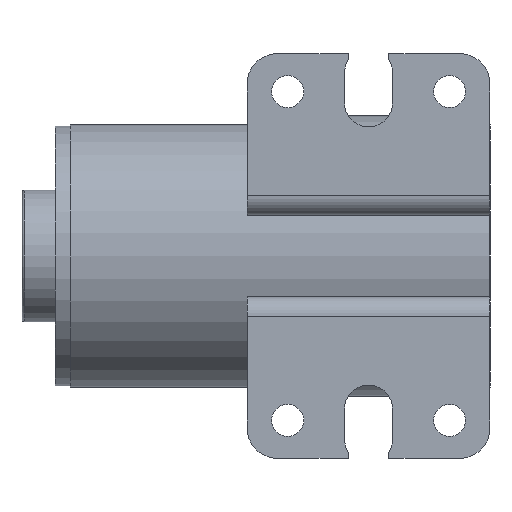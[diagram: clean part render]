
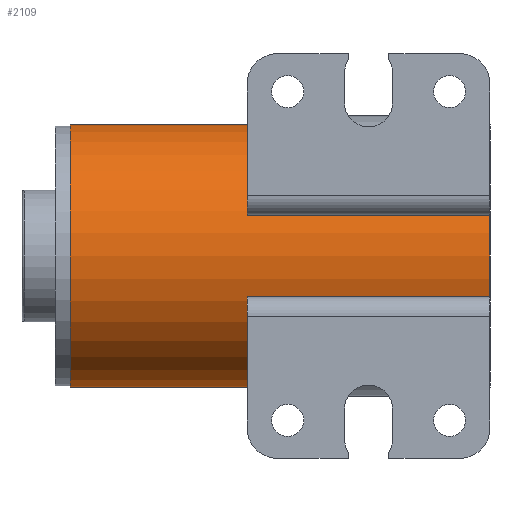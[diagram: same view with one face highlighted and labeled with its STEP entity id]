
A CAD part, front view. The second image highlights one B-rep face of the part: STEP entity #2109.
In plain terms, the highlighted cylindrical face has radius 26 mm (diameter 52 mm), a partial arc.
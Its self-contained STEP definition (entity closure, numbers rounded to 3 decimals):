
#28 = VERTEX_POINT ( 'NONE', #1275 ) ;
#247 = CYLINDRICAL_SURFACE ( 'NONE', #258, 26. ) ;
#256 = CARTESIAN_POINT ( 'NONE',  ( 83., 0., 26. ) ) ;
#258 = AXIS2_PLACEMENT_3D ( 'NONE', #1634, #2417, #1836 ) ;
#448 = EDGE_CURVE ( 'NONE', #957, #933, #638, .T. ) ;
#512 = CARTESIAN_POINT ( 'NONE',  ( 0., 0., 26. ) ) ;
#515 = DIRECTION ( 'NONE',  ( -1., 0., 0. ) ) ;
#550 = EDGE_LOOP ( 'NONE', ( #554, #753, #1740, #1397 ) ) ;
#554 = ORIENTED_EDGE ( 'NONE', *, *, #448, .F. ) ;
#616 = DIRECTION ( 'NONE',  ( 0., 0., -1. ) ) ;
#626 = EDGE_CURVE ( 'NONE', #28, #933, #888, .T. ) ;
#638 = LINE ( 'NONE', #1455, #825 ) ;
#722 = CARTESIAN_POINT ( 'NONE',  ( 83., 0., 0. ) ) ;
#753 = ORIENTED_EDGE ( 'NONE', *, *, #1247, .T. ) ;
#770 = LINE ( 'NONE', #1560, #1626 ) ;
#825 = VECTOR ( 'NONE', #2209, 1000. ) ;
#888 = CIRCLE ( 'NONE', #2125, 26. ) ;
#933 = VERTEX_POINT ( 'NONE', #256 ) ;
#957 = VERTEX_POINT ( 'NONE', #512 ) ;
#1247 = EDGE_CURVE ( 'NONE', #957, #1684, #1698, .T. ) ;
#1248 = AXIS2_PLACEMENT_3D ( 'NONE', #2019, #1808, #616 ) ;
#1275 = CARTESIAN_POINT ( 'NONE',  ( 83., 0., -26. ) ) ;
#1397 = ORIENTED_EDGE ( 'NONE', *, *, #626, .T. ) ;
#1455 = CARTESIAN_POINT ( 'NONE',  ( 0., 0., 26. ) ) ;
#1560 = CARTESIAN_POINT ( 'NONE',  ( 0., 0., -26. ) ) ;
#1626 = VECTOR ( 'NONE', #2340, 1000. ) ;
#1634 = CARTESIAN_POINT ( 'NONE',  ( 0., 0., 0. ) ) ;
#1684 = VERTEX_POINT ( 'NONE', #1985 ) ;
#1698 = CIRCLE ( 'NONE', #1248, 26. ) ;
#1740 = ORIENTED_EDGE ( 'NONE', *, *, #1965, .T. ) ;
#1808 = DIRECTION ( 'NONE',  ( 1., 0., 0. ) ) ;
#1836 = DIRECTION ( 'NONE',  ( 0., 0., -1. ) ) ;
#1965 = EDGE_CURVE ( 'NONE', #1684, #28, #770, .T. ) ;
#1985 = CARTESIAN_POINT ( 'NONE',  ( 0., 0., -26. ) ) ;
#2013 = FACE_OUTER_BOUND ( 'NONE', #550, .T. ) ;
#2019 = CARTESIAN_POINT ( 'NONE',  ( 0., 0., 0. ) ) ;
#2109 = ADVANCED_FACE ( 'NONE', ( #2013 ), #247, .T. ) ;
#2125 = AXIS2_PLACEMENT_3D ( 'NONE', #722, #515, #2295 ) ;
#2209 = DIRECTION ( 'NONE',  ( 1., 0., 0. ) ) ;
#2295 = DIRECTION ( 'NONE',  ( 0., 0., 1. ) ) ;
#2340 = DIRECTION ( 'NONE',  ( 1., 0., 0. ) ) ;
#2417 = DIRECTION ( 'NONE',  ( 1., 0., 0. ) ) ;
